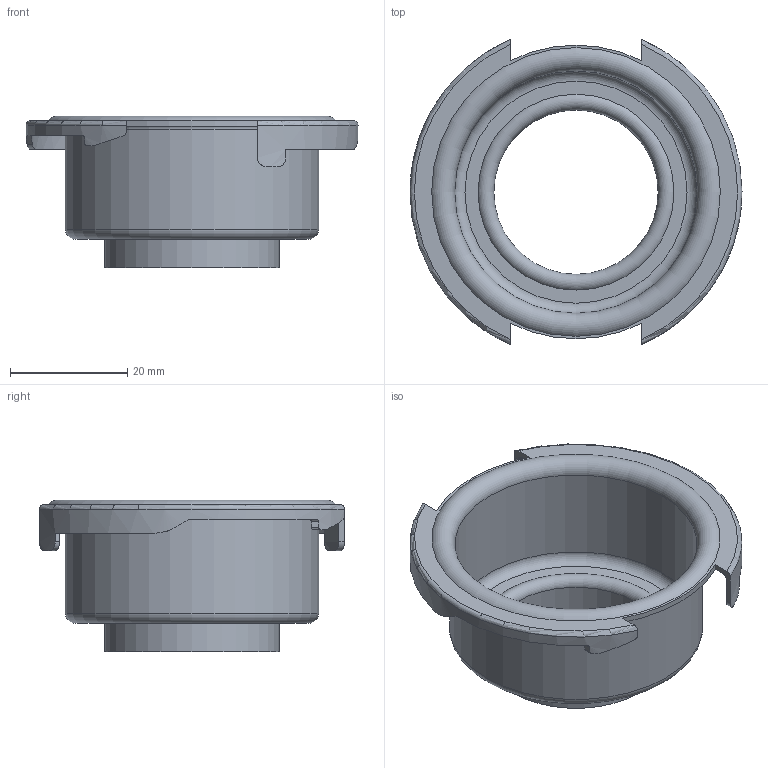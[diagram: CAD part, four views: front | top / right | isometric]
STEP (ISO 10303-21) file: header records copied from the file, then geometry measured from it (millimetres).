
FILE_DESCRIPTION(/* description */ ('205 Brass Shell'),/* implementation_level */ '2;1');
FILE_NAME(/* name */ '205-BR.step',/* time_stamp */ '2026-05-08T10:43:19-05:00',/* author */ (''),/* organization */ (''),/* preprocessor_version */ 'ST-DEVELOPER v20.1',/* originating_system */ 'Autodesk Translation Framework v15.8.0.0',/* authorisation */ '');
FILE_SCHEMA (('AUTOMOTIVE_DESIGN { 1 0 10303 214 3 1 1 }'));
Length unit declared in the file: millimetre
Products named in the file (1): 205-BR
Bounding box: 56.58 x 51.98 x 25.8 mm (x, y, z)
Volume: 4763.8 mm3; surface area: 10432.5 mm2
Topology: 1 solids, 1 shells, 59 faces, 156 edges, 102 vertices
Faces by surface type: plane 25, cylinder 22, torus 10, bspline 2
Full cylindrical faces by diameter (mm): 28 x1, 29.829 x1, 41.34 x1, 43.169 x1
Entity records: 2227 total; most frequent: CARTESIAN_POINT 756, ORIENTED_EDGE 312, DIRECTION 288, EDGE_CURVE 156, AXIS2_PLACEMENT_3D 114, VERTEX_POINT 102, EDGE_LOOP 64, LINE 60
